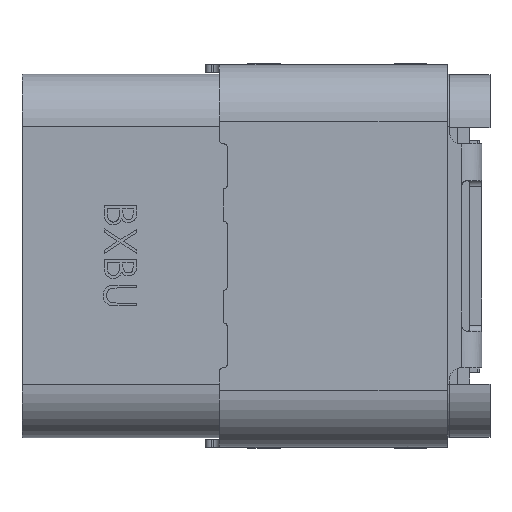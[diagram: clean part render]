
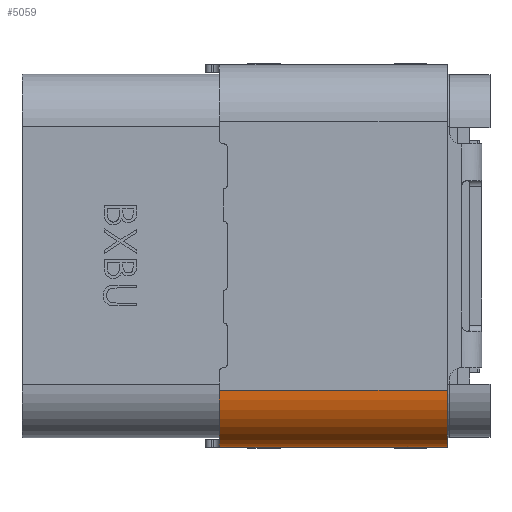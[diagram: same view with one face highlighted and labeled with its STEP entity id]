
A CAD part, top view. The second image highlights one B-rep face of the part: STEP entity #5059.
In plain terms, the highlighted cylindrical face has radius 1.4 mm (diameter 2.8 mm), a partial arc.
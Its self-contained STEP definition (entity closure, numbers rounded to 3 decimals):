
#1071 = DIRECTION ( 'NONE',  ( -1., 0., 0. ) ) ;
#1185 = CARTESIAN_POINT ( 'NONE',  ( 300.48, -53.438, 1.855 ) ) ;
#2595 = CARTESIAN_POINT ( 'NONE',  ( 306.192, -53.438, 0.455 ) ) ;
#2596 = CARTESIAN_POINT ( 'NONE',  ( 301.091, -54.836, 0.507 ) ) ;
#2882 = CIRCLE ( 'NONE', #36795, 1.4 ) ;
#3290 = VERTEX_POINT ( 'NONE', #17104 ) ;
#3309 = ORIENTED_EDGE ( 'NONE', *, *, #42594, .F. ) ;
#3335 = DIRECTION ( 'NONE',  ( 1., 0., 0. ) ) ;
#5059 = ADVANCED_FACE ( 'NONE', ( #21180 ), #17793, .T. ) ;
#5208 = VECTOR ( 'NONE', #1071, 1000. ) ;
#5394 = DIRECTION ( 'NONE',  ( -1., 0., 0. ) ) ;
#9950 = VERTEX_POINT ( 'NONE', #14112 ) ;
#10325 = EDGE_CURVE ( 'NONE', #28398, #9950, #10635, .T. ) ;
#10635 = B_SPLINE_CURVE_WITH_KNOTS ( 'NONE', 3,
 ( #20567, #20822, #17914, #39397, #17421, #21536 ),
 .UNSPECIFIED., .F., .F.,
 ( 4, 2, 4 ),
 ( 0., 0.5, 1. ),
 .UNSPECIFIED. ) ;
#12921 = VERTEX_POINT ( 'NONE', #1185 ) ;
#12950 = CARTESIAN_POINT ( 'NONE',  ( 301.18, -54.834, 0.555 ) ) ;
#13059 = CARTESIAN_POINT ( 'NONE',  ( 306.08, -53.438, 1.855 ) ) ;
#13369 = DIRECTION ( 'NONE',  ( -1., 0., 0. ) ) ;
#13413 = CARTESIAN_POINT ( 'NONE',  ( 302.08, -54.838, 0.455 ) ) ;
#13675 = ORIENTED_EDGE ( 'NONE', *, *, #37076, .F. ) ;
#13685 = CARTESIAN_POINT ( 'NONE',  ( 301.128, -54.835, 0.544 ) ) ;
#13966 = LINE ( 'NONE', #21450, #45635 ) ;
#14112 = CARTESIAN_POINT ( 'NONE',  ( 301.98, -54.834, 0.555 ) ) ;
#15385 = ORIENTED_EDGE ( 'NONE', *, *, #43970, .F. ) ;
#15569 = LINE ( 'NONE', #31222, #5208 ) ;
#16576 = CARTESIAN_POINT ( 'NONE',  ( 301.18, -54.834, 0.555 ) ) ;
#17104 = CARTESIAN_POINT ( 'NONE',  ( 300.48, -54.838, 0.455 ) ) ;
#17421 = CARTESIAN_POINT ( 'NONE',  ( 302.006, -54.835, 0.555 ) ) ;
#17793 = CYLINDRICAL_SURFACE ( 'NONE', #46381, 1.4 ) ;
#17914 = CARTESIAN_POINT ( 'NONE',  ( 302.069, -54.836, 0.507 ) ) ;
#18308 = DIRECTION ( 'NONE',  ( 0., 0., 1. ) ) ;
#18683 = CARTESIAN_POINT ( 'NONE',  ( 306.08, -54.838, 0.455 ) ) ;
#18956 = EDGE_CURVE ( 'NONE', #12921, #20058, #13966, .T. ) ;
#19652 = CARTESIAN_POINT ( 'NONE',  ( 304.08, -54.838, 0.455 ) ) ;
#20058 = VERTEX_POINT ( 'NONE', #13059 ) ;
#20567 = CARTESIAN_POINT ( 'NONE',  ( 302.08, -54.838, 0.455 ) ) ;
#20763 = VECTOR ( 'NONE', #37464, 1000. ) ;
#20822 = CARTESIAN_POINT ( 'NONE',  ( 302.08, -54.837, 0.481 ) ) ;
#21180 = FACE_OUTER_BOUND ( 'NONE', #41563, .T. ) ;
#21450 = CARTESIAN_POINT ( 'NONE',  ( 303.28, -53.438, 1.855 ) ) ;
#21536 = CARTESIAN_POINT ( 'NONE',  ( 301.98, -54.834, 0.555 ) ) ;
#22426 = DIRECTION ( 'NONE',  ( 1., 0., 0. ) ) ;
#23084 = VECTOR ( 'NONE', #5394, 1000. ) ;
#24471 = DIRECTION ( 'NONE',  ( 0., 0., 1. ) ) ;
#26384 = CARTESIAN_POINT ( 'NONE',  ( 306.192, -54.834, 0.555 ) ) ;
#26804 = EDGE_CURVE ( 'NONE', #37422, #35543, #38239, .T. ) ;
#27143 = LINE ( 'NONE', #19652, #23084 ) ;
#27487 = ORIENTED_EDGE ( 'NONE', *, *, #26804, .F. ) ;
#28034 = CARTESIAN_POINT ( 'NONE',  ( 301.08, -54.838, 0.455 ) ) ;
#28398 = VERTEX_POINT ( 'NONE', #13413 ) ;
#28892 = DIRECTION ( 'NONE',  ( -1., 0., 0. ) ) ;
#30430 = ORIENTED_EDGE ( 'NONE', *, *, #38979, .F. ) ;
#31222 = CARTESIAN_POINT ( 'NONE',  ( 306.192, -54.838, 0.455 ) ) ;
#33137 = LINE ( 'NONE', #26384, #20763 ) ;
#34553 = ORIENTED_EDGE ( 'NONE', *, *, #18956, .F. ) ;
#34606 = CIRCLE ( 'NONE', #41517, 1.4 ) ;
#35251 = VERTEX_POINT ( 'NONE', #18683 ) ;
#35425 = CARTESIAN_POINT ( 'NONE',  ( 301.08, -54.837, 0.481 ) ) ;
#35543 = VERTEX_POINT ( 'NONE', #28034 ) ;
#36795 = AXIS2_PLACEMENT_3D ( 'NONE', #47287, #22426, #18308 ) ;
#37076 = EDGE_CURVE ( 'NONE', #20058, #35251, #2882, .T. ) ;
#37422 = VERTEX_POINT ( 'NONE', #12950 ) ;
#37464 = DIRECTION ( 'NONE',  ( -1., 0., 0. ) ) ;
#38239 = B_SPLINE_CURVE_WITH_KNOTS ( 'NONE', 3,
 ( #16576, #46758, #13685, #2596, #35425, #42164 ),
 .UNSPECIFIED., .F., .F.,
 ( 4, 2, 4 ),
 ( 0., 0.5, 1. ),
 .UNSPECIFIED. ) ;
#38770 = EDGE_CURVE ( 'NONE', #35251, #28398, #27143, .T. ) ;
#38848 = ORIENTED_EDGE ( 'NONE', *, *, #10325, .F. ) ;
#38979 = EDGE_CURVE ( 'NONE', #9950, #37422, #33137, .T. ) ;
#39397 = CARTESIAN_POINT ( 'NONE',  ( 302.032, -54.835, 0.544 ) ) ;
#41517 = AXIS2_PLACEMENT_3D ( 'NONE', #42793, #13369, #24471 ) ;
#41563 = EDGE_LOOP ( 'NONE', ( #45894, #13675, #34553, #15385, #3309, #27487, #30430, #38848 ) ) ;
#42164 = CARTESIAN_POINT ( 'NONE',  ( 301.08, -54.838, 0.455 ) ) ;
#42594 = EDGE_CURVE ( 'NONE', #35543, #3290, #15569, .T. ) ;
#42793 = CARTESIAN_POINT ( 'NONE',  ( 300.48, -53.438, 0.455 ) ) ;
#43597 = DIRECTION ( 'NONE',  ( 0., 1., 0. ) ) ;
#43970 = EDGE_CURVE ( 'NONE', #3290, #12921, #34606, .T. ) ;
#45635 = VECTOR ( 'NONE', #3335, 1000. ) ;
#45894 = ORIENTED_EDGE ( 'NONE', *, *, #38770, .F. ) ;
#46381 = AXIS2_PLACEMENT_3D ( 'NONE', #2595, #28892, #43597 ) ;
#46758 = CARTESIAN_POINT ( 'NONE',  ( 301.154, -54.835, 0.555 ) ) ;
#47287 = CARTESIAN_POINT ( 'NONE',  ( 306.08, -53.438, 0.455 ) ) ;
